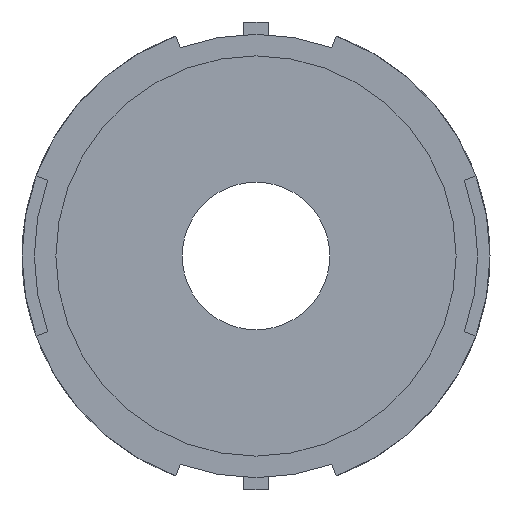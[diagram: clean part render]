
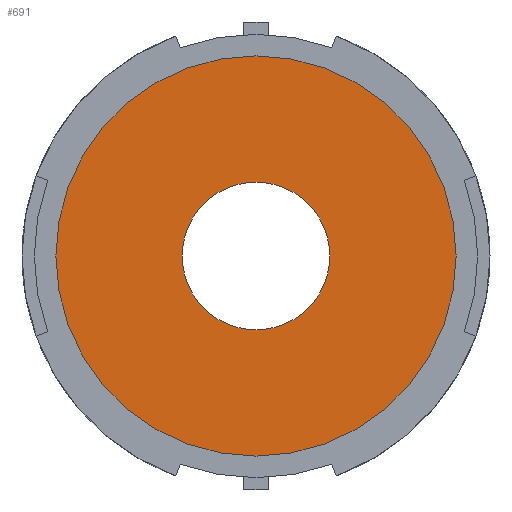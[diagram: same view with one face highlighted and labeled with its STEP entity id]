
A CAD part, left-side view. The second image highlights one B-rep face of the part: STEP entity #691.
In plain terms, the highlighted planar face has unit normal (-1, 0, 0).
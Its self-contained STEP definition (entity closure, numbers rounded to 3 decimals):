
#25=PLANE('',#766);
#250=ORIENTED_EDGE('',*,*,#441,.F.);
#251=ORIENTED_EDGE('',*,*,#440,.T.);
#440=EDGE_CURVE('',#531,#531,#572,.T.);
#441=EDGE_CURVE('',#532,#532,#573,.T.);
#531=VERTEX_POINT('',#1143);
#532=VERTEX_POINT('',#1146);
#572=CIRCLE('',#765,6.5);
#573=CIRCLE('',#767,2.4);
#594=EDGE_LOOP('',(#250));
#595=EDGE_LOOP('',(#251));
#638=FACE_BOUND('',#594,.T.);
#639=FACE_BOUND('',#595,.T.);
#691=ADVANCED_FACE('',(#638,#639),#25,.F.);
#765=AXIS2_PLACEMENT_3D('',#1142,#909,#910);
#766=AXIS2_PLACEMENT_3D('',#1144,#911,#912);
#767=AXIS2_PLACEMENT_3D('',#1145,#913,#914);
#909=DIRECTION('',(-1.,0.,0.));
#910=DIRECTION('',(0.,0.,1.));
#911=DIRECTION('',(1.,0.,0.));
#912=DIRECTION('',(0.,0.,-1.));
#913=DIRECTION('',(-1.,0.,0.));
#914=DIRECTION('',(0.,0.,1.));
#1142=CARTESIAN_POINT('',(-64.,0.,0.));
#1143=CARTESIAN_POINT('',(-64.,0.,6.5));
#1144=CARTESIAN_POINT('',(-64.,0.,2.4));
#1145=CARTESIAN_POINT('',(-64.,0.,0.));
#1146=CARTESIAN_POINT('',(-64.,0.,2.4));
